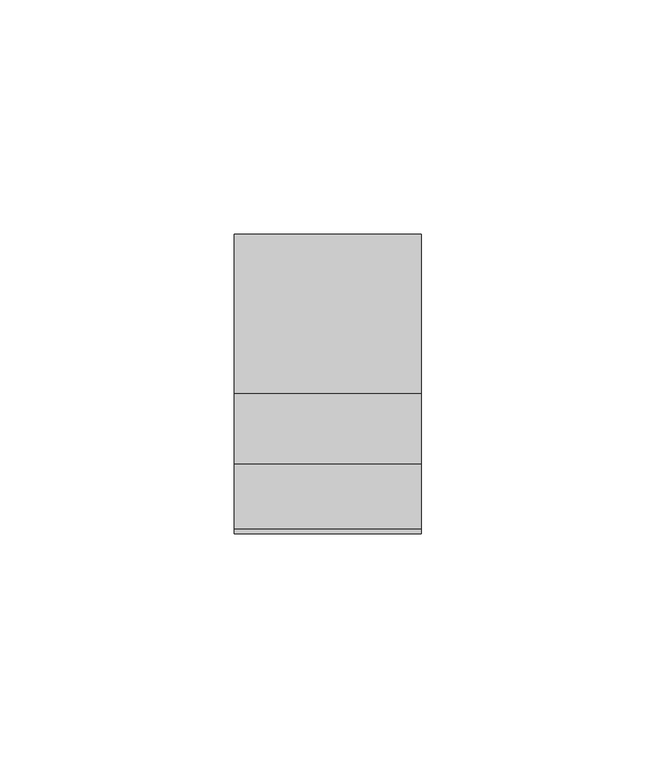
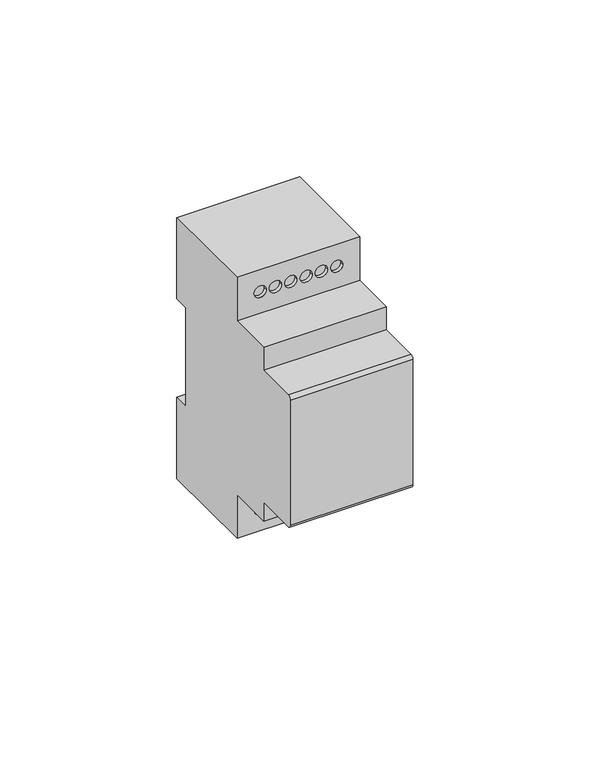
"""IFC4 building model written with IfcOpenShell, lengths in millimetres: proxy geometry, TDM_РЕЛЕ КОНТРОЛЯ УРОВНЯ СЕРИИ РКУ-02_03_04 : РКУ-02 230/400 В АС."""

from ifc_helpers import new_model, si_unit, frame, origin, place, context, project, spatial, polyline, circle_curve, outline, extrude, source, transform, mapped, element, save
from ifc_brep_helpers import plane_surface, cylinder_surface, revolved_surface, advanced_brep


def electrical_equipment_8167011e(model_context):
    return source(origin(), model_context, "Body", "SolidModel", [
        extrude(outline(polyline([(19.0, 16.6821204), (19.0, 5.0468966), (-19.0, 5.0468966), (-19.0, 16.6821204), (19.0, 16.6821204)])), frame((0.0, 0.0, -44.0625), z_axis=(0.0, 0.0, 1.0), x_axis=(1.0, 0.0, 0.0)), (0.0, 0.0, 1.0), 87.8126081),
        advanced_brep(
        [(20.0, 32.5, 17.0), (20.0, 37.5, 17.0), (20.0, 37.5, 45.0), (20.0, 3.5, 45.0), (20.0, 3.5, 30.0), (20.0, -11.5, 30.0), (20.0, -11.5, 22.0), (20.0, -25.3777313, 22.0), (20.0, -26.5, 20.8777313), (20.0, -26.5, -22.3875602), (20.0, -25.3875602, -23.5), (20.0, -11.5, -23.5), (20.0, -11.5, -30.0), (20.0, 3.5, -30.0), (20.0, 3.5, -45.0), (20.0, 37.5, -45.0), (20.0, 37.5, -17.0), (20.0, 32.5, -17.0), (-20.0, 32.5, 17.0), (-20.0, 32.5, -17.0), (-20.0, 37.5, -17.0), (-20.0, 37.5, -45.0), (-20.0, 3.5, -45.0), (-20.0, 3.5, -30.0), (-20.0, -11.5, -30.0), (-20.0, -11.5, -23.5), (-20.0, -25.3875602, -23.5), (-20.0, -26.5, -22.3875602), (-20.0, -26.5, 20.8777313), (-20.0, -25.3777313, 22.0), (-20.0, -11.5, 22.0), (-20.0, -11.5, 30.0), (-20.0, 3.5, 30.0), (-20.0, 3.5, 45.0), (-20.0, 37.5, 45.0), (-20.0, 37.5, 17.0), (4.5, 6.1937398, -37.4385116), (0.5, 6.1937398, -37.4385116), (9.5, 6.1937398, -37.4385116), (5.5, 6.1937398, -37.4385116), (14.5, 6.1937398, -37.4385116), (10.5, 6.1937398, -37.4385116), (-4.5, 6.1937398, -37.4385116), (-0.5, 6.1937398, -37.4385116), (-9.5, 6.1937398, -37.4385116), (-5.5, 6.1937398, -37.4385116), (-14.5, 6.1937398, -37.4385116), (-10.5, 6.1937398, -37.4385116), (4.5, 6.1937398, 37.4385116), (0.5, 6.1937398, 37.4385116), (9.5, 6.1937398, 37.4385116), (5.5, 6.1937398, 37.4385116), (14.5, 6.1937398, 37.4385116), (10.5, 6.1937398, 37.4385116), (-4.5, 6.1937398, 37.4385116), (-0.5, 6.1937398, 37.4385116), (-9.5, 6.1937398, 37.4385116), (-5.5, 6.1937398, 37.4385116), (-14.5, 6.1937398, 37.4385116), (-10.5, 6.1937398, 37.4385116), (0.5, 3.5, 37.4385116), (4.5, 3.5, 37.4385116), (5.5, 3.5, 37.4385116), (9.5, 3.5, 37.4385116), (10.5, 3.5, 37.4385116), (14.5, 3.5, 37.4385116), (-0.5, 3.5, 37.4385116), (-4.5, 3.5, 37.4385116), (-5.5, 3.5, 37.4385116), (-9.5, 3.5, 37.4385116), (-10.5, 3.5, 37.4385116), (-14.5, 3.5, 37.4385116), (0.5, 3.5, -37.4385116), (4.5, 3.5, -37.4385116), (5.5, 3.5, -37.4385116), (9.5, 3.5, -37.4385116), (10.5, 3.5, -37.4385116), (14.5, 3.5, -37.4385116), (-0.5, 3.5, -37.4385116), (-4.5, 3.5, -37.4385116), (-5.5, 3.5, -37.4385116), (-9.5, 3.5, -37.4385116), (-10.5, 3.5, -37.4385116), (-14.5, 3.5, -37.4385116)],
        [
            (0, 1),
            (1, 2),
            (2, 3),
            (3, 4),
            (4, 5),
            (5, 6),
            (6, 7),
            (7, 8, circle_curve(frame((20.0, -25.3777313, 20.8777313), z_axis=(1.0, 0.0, 0.0), x_axis=(0.0, -1.0, 0.0)), 1.1222687)),
            (8, 9),
            (9, 10, circle_curve(frame((20.0, -25.3875602, -22.3875602), z_axis=(1.0, 0.0, 0.0), x_axis=(0.0, -1.0, 0.0)), 1.1124398)),
            (10, 11),
            (11, 12),
            (12, 13),
            (13, 14),
            (14, 15),
            (15, 16),
            (16, 17),
            (17, 0),
            (18, 19),
            (19, 20),
            (20, 21),
            (21, 22),
            (22, 23),
            (23, 24),
            (24, 25),
            (25, 26),
            (26, 27, circle_curve(frame((-20.0, -25.3875602, -22.3875602), z_axis=(-1.0, 0.0, 0.0), x_axis=(0.0, -1.0, 0.0)), 1.1124398)),
            (27, 28),
            (28, 29, circle_curve(frame((-20.0, -25.3777313, 20.8777313), z_axis=(-1.0, 0.0, 0.0), x_axis=(0.0, -1.0, 0.0)), 1.1222687)),
            (29, 30),
            (30, 31),
            (31, 32),
            (32, 33),
            (33, 34),
            (34, 35),
            (35, 18),
            (0, 18),
            (35, 1),
            (34, 2),
            (6, 30),
            (29, 7),
            (28, 8),
            (27, 9),
            (10, 26),
            (25, 11),
            (14, 22),
            (21, 15),
            (20, 16),
            (19, 17),
            (36, 37, circle_curve(frame((2.5, 6.1937398, -37.4385116), z_axis=(0.0, -1.0, 0.0), x_axis=(-1.0, 0.0, 0.0)), 2.0)),
            (37, 36, circle_curve(frame((2.5, 6.1937398, -37.4385116), z_axis=(0.0, -1.0, 0.0), x_axis=(-1.0, 0.0, 0.0)), 2.0)),
            (38, 39, circle_curve(frame((7.5, 6.1937398, -37.4385116), z_axis=(0.0, -1.0, 0.0), x_axis=(-1.0, 0.0, 0.0)), 2.0)),
            (39, 38, circle_curve(frame((7.5, 6.1937398, -37.4385116), z_axis=(0.0, -1.0, 0.0), x_axis=(-1.0, 0.0, 0.0)), 2.0)),
            (40, 41, circle_curve(frame((12.5, 6.1937398, -37.4385116), z_axis=(0.0, -1.0, 0.0), x_axis=(-1.0, 0.0, 0.0)), 2.0)),
            (41, 40, circle_curve(frame((12.5, 6.1937398, -37.4385116), z_axis=(0.0, -1.0, 0.0), x_axis=(-1.0, 0.0, 0.0)), 2.0)),
            (42, 43, circle_curve(frame((-2.5, 6.1937398, -37.4385116), z_axis=(0.0, -1.0, 0.0), x_axis=(1.0, 0.0, 0.0)), 2.0)),
            (43, 42, circle_curve(frame((-2.5, 6.1937398, -37.4385116), z_axis=(0.0, -1.0, 0.0), x_axis=(1.0, 0.0, 0.0)), 2.0)),
            (44, 45, circle_curve(frame((-7.5, 6.1937398, -37.4385116), z_axis=(0.0, -1.0, 0.0), x_axis=(1.0, 0.0, 0.0)), 2.0)),
            (45, 44, circle_curve(frame((-7.5, 6.1937398, -37.4385116), z_axis=(0.0, -1.0, 0.0), x_axis=(1.0, 0.0, 0.0)), 2.0)),
            (46, 47, circle_curve(frame((-12.5, 6.1937398, -37.4385116), z_axis=(0.0, -1.0, 0.0), x_axis=(1.0, 0.0, 0.0)), 2.0)),
            (47, 46, circle_curve(frame((-12.5, 6.1937398, -37.4385116), z_axis=(0.0, -1.0, 0.0), x_axis=(1.0, 0.0, 0.0)), 2.0)),
            (48, 49, circle_curve(frame((2.5, 6.1937398, 37.4385116), z_axis=(0.0, -1.0, 0.0), x_axis=(-1.0, 0.0, 0.0)), 2.0)),
            (49, 48, circle_curve(frame((2.5, 6.1937398, 37.4385116), z_axis=(0.0, -1.0, 0.0), x_axis=(-1.0, 0.0, 0.0)), 2.0)),
            (50, 51, circle_curve(frame((7.5, 6.1937398, 37.4385116), z_axis=(0.0, -1.0, 0.0), x_axis=(-1.0, 0.0, 0.0)), 2.0)),
            (51, 50, circle_curve(frame((7.5, 6.1937398, 37.4385116), z_axis=(0.0, -1.0, 0.0), x_axis=(-1.0, 0.0, 0.0)), 2.0)),
            (52, 53, circle_curve(frame((12.5, 6.1937398, 37.4385116), z_axis=(0.0, -1.0, 0.0), x_axis=(-1.0, 0.0, 0.0)), 2.0)),
            (53, 52, circle_curve(frame((12.5, 6.1937398, 37.4385116), z_axis=(0.0, -1.0, 0.0), x_axis=(-1.0, 0.0, 0.0)), 2.0)),
            (54, 55, circle_curve(frame((-2.5, 6.1937398, 37.4385116), z_axis=(0.0, -1.0, 0.0), x_axis=(1.0, 0.0, 0.0)), 2.0)),
            (55, 54, circle_curve(frame((-2.5, 6.1937398, 37.4385116), z_axis=(0.0, -1.0, 0.0), x_axis=(1.0, 0.0, 0.0)), 2.0)),
            (56, 57, circle_curve(frame((-7.5, 6.1937398, 37.4385116), z_axis=(0.0, -1.0, 0.0), x_axis=(1.0, 0.0, 0.0)), 2.0)),
            (57, 56, circle_curve(frame((-7.5, 6.1937398, 37.4385116), z_axis=(0.0, -1.0, 0.0), x_axis=(1.0, 0.0, 0.0)), 2.0)),
            (58, 59, circle_curve(frame((-12.5, 6.1937398, 37.4385116), z_axis=(0.0, -1.0, 0.0), x_axis=(1.0, 0.0, 0.0)), 2.0)),
            (59, 58, circle_curve(frame((-12.5, 6.1937398, 37.4385116), z_axis=(0.0, -1.0, 0.0), x_axis=(1.0, 0.0, 0.0)), 2.0)),
            (3, 33),
            (32, 4),
            (60, 61, circle_curve(frame((2.5, 3.5, 37.4385116), z_axis=(0.0, 1.0, 0.0), x_axis=(-1.0, 0.0, 0.0)), 2.0)),
            (61, 60, circle_curve(frame((2.5, 3.5, 37.4385116), z_axis=(0.0, 1.0, 0.0), x_axis=(-1.0, 0.0, 0.0)), 2.0)),
            (62, 63, circle_curve(frame((7.5, 3.5, 37.4385116), z_axis=(0.0, 1.0, 0.0), x_axis=(-1.0, 0.0, 0.0)), 2.0)),
            (63, 62, circle_curve(frame((7.5, 3.5, 37.4385116), z_axis=(0.0, 1.0, 0.0), x_axis=(-1.0, 0.0, 0.0)), 2.0)),
            (64, 65, circle_curve(frame((12.5, 3.5, 37.4385116), z_axis=(0.0, 1.0, 0.0), x_axis=(-1.0, 0.0, 0.0)), 2.0)),
            (65, 64, circle_curve(frame((12.5, 3.5, 37.4385116), z_axis=(0.0, 1.0, 0.0), x_axis=(-1.0, 0.0, 0.0)), 2.0)),
            (66, 67, circle_curve(frame((-2.5, 3.5, 37.4385116), z_axis=(0.0, 1.0, 0.0), x_axis=(1.0, 0.0, 0.0)), 2.0)),
            (67, 66, circle_curve(frame((-2.5, 3.5, 37.4385116), z_axis=(0.0, 1.0, 0.0), x_axis=(1.0, 0.0, 0.0)), 2.0)),
            (68, 69, circle_curve(frame((-7.5, 3.5, 37.4385116), z_axis=(0.0, 1.0, 0.0), x_axis=(1.0, 0.0, 0.0)), 2.0)),
            (69, 68, circle_curve(frame((-7.5, 3.5, 37.4385116), z_axis=(0.0, 1.0, 0.0), x_axis=(1.0, 0.0, 0.0)), 2.0)),
            (70, 71, circle_curve(frame((-12.5, 3.5, 37.4385116), z_axis=(0.0, 1.0, 0.0), x_axis=(1.0, 0.0, 0.0)), 2.0)),
            (71, 70, circle_curve(frame((-12.5, 3.5, 37.4385116), z_axis=(0.0, 1.0, 0.0), x_axis=(1.0, 0.0, 0.0)), 2.0)),
            (31, 5),
            (24, 12),
            (23, 13),
            (72, 73, circle_curve(frame((2.5, 3.5, -37.4385116), z_axis=(0.0, 1.0, 0.0), x_axis=(-1.0, 0.0, 0.0)), 2.0)),
            (73, 72, circle_curve(frame((2.5, 3.5, -37.4385116), z_axis=(0.0, 1.0, 0.0), x_axis=(-1.0, 0.0, 0.0)), 2.0)),
            (74, 75, circle_curve(frame((7.5, 3.5, -37.4385116), z_axis=(0.0, 1.0, 0.0), x_axis=(-1.0, 0.0, 0.0)), 2.0)),
            (75, 74, circle_curve(frame((7.5, 3.5, -37.4385116), z_axis=(0.0, 1.0, 0.0), x_axis=(-1.0, 0.0, 0.0)), 2.0)),
            (76, 77, circle_curve(frame((12.5, 3.5, -37.4385116), z_axis=(0.0, 1.0, 0.0), x_axis=(-1.0, 0.0, 0.0)), 2.0)),
            (77, 76, circle_curve(frame((12.5, 3.5, -37.4385116), z_axis=(0.0, 1.0, 0.0), x_axis=(-1.0, 0.0, 0.0)), 2.0)),
            (78, 79, circle_curve(frame((-2.5, 3.5, -37.4385116), z_axis=(0.0, 1.0, 0.0), x_axis=(1.0, 0.0, 0.0)), 2.0)),
            (79, 78, circle_curve(frame((-2.5, 3.5, -37.4385116), z_axis=(0.0, 1.0, 0.0), x_axis=(1.0, 0.0, 0.0)), 2.0)),
            (80, 81, circle_curve(frame((-7.5, 3.5, -37.4385116), z_axis=(0.0, 1.0, 0.0), x_axis=(1.0, 0.0, 0.0)), 2.0)),
            (81, 80, circle_curve(frame((-7.5, 3.5, -37.4385116), z_axis=(0.0, 1.0, 0.0), x_axis=(1.0, 0.0, 0.0)), 2.0)),
            (82, 83, circle_curve(frame((-12.5, 3.5, -37.4385116), z_axis=(0.0, 1.0, 0.0), x_axis=(1.0, 0.0, 0.0)), 2.0)),
            (83, 82, circle_curve(frame((-12.5, 3.5, -37.4385116), z_axis=(0.0, 1.0, 0.0), x_axis=(1.0, 0.0, 0.0)), 2.0)),
            (36, 73),
            (72, 37),
            (38, 75),
            (74, 39),
            (40, 77),
            (76, 41),
            (42, 79),
            (78, 43),
            (44, 81),
            (80, 45),
            (46, 83),
            (82, 47),
            (48, 61),
            (60, 49),
            (50, 63),
            (62, 51),
            (52, 65),
            (64, 53),
            (54, 67),
            (66, 55),
            (56, 69),
            (68, 57),
            (58, 71),
            (70, 59),
        ],
        [
            plane_surface(frame((20.0, 31.7632568, 17.0), z_axis=(1.0, 0.0, 0.0), x_axis=(0.0, 1.0, 0.0))),
            plane_surface(frame((-20.0, 31.7632568, 17.0), z_axis=(-1.0, 0.0, 0.0), x_axis=(0.0, -1.0, 0.0))),
            plane_surface(frame((20.0, 32.5, 17.0), z_axis=(0.0, 0.0, -1.0), x_axis=(-1.0, 0.0, 0.0))),
            plane_surface(frame((20.0, 37.5, 17.0), z_axis=(0.0, 1.0, 0.0), x_axis=(-1.0, 0.0, 0.0))),
            plane_surface(frame((20.0, -11.5, 22.0), z_axis=(0.0, 0.0, 1.0), x_axis=(-1.0, 0.0, 0.0))),
            cylinder_surface(frame((-20.0, -25.3777313, 20.8777313), z_axis=(1.0, 0.0, 0.0), x_axis=(0.0, -1.0, 0.0)), 1.1222687),
            plane_surface(frame((20.0, -26.5, 20.8777313), z_axis=(0.0, -1.0, 0.0), x_axis=(-1.0, 0.0, 0.0))),
            plane_surface(frame((20.0, -25.3875602, -23.5), z_axis=(0.0, 0.0, -1.0), x_axis=(-1.0, 0.0, 0.0))),
            plane_surface(frame((20.0, 3.5, -45.0), z_axis=(0.0, 0.0, -1.0), x_axis=(-1.0, 0.0, 0.0))),
            plane_surface(frame((20.0, 37.5, -45.0), z_axis=(0.0, 1.0, 0.0), x_axis=(-1.0, 0.0, 0.0))),
            plane_surface(frame((20.0, 37.5, -17.0), z_axis=(0.0, 0.0, 1.0), x_axis=(-1.0, 0.0, 0.0))),
            plane_surface(frame((20.0, 32.5, -17.0), z_axis=(0.0, 1.0, 0.0), x_axis=(-1.0, 0.0, 0.0))),
            cylinder_surface(frame((-20.0, -25.3875602, -22.3875602), z_axis=(1.0, 0.0, 0.0), x_axis=(0.0, -1.0, 0.0)), 1.1124398),
            plane_surface(frame((0.5, 6.1937398, -37.4385116), z_axis=(0.0, -1.0, 0.0), x_axis=(0.0, 0.0, 1.0))),
            plane_surface(frame((20.0, 3.5, 45.0), z_axis=(0.0, -1.0, 0.0), x_axis=(-1.0, 0.0, 0.0))),
            plane_surface(frame((20.0, 3.5, 30.0), z_axis=(0.0, 0.0, 1.0), x_axis=(-1.0, 0.0, 0.0))),
            plane_surface(frame((20.0, -11.5, 30.0), z_axis=(0.0, -1.0, 0.0), x_axis=(-1.0, 0.0, 0.0))),
            plane_surface(frame((20.0, -11.5, -23.5), z_axis=(0.0, -1.0, 0.0), x_axis=(-1.0, 0.0, 0.0))),
            plane_surface(frame((20.0, -11.5, -30.0), z_axis=(0.0, 0.0, -1.0), x_axis=(-1.0, 0.0, 0.0))),
            plane_surface(frame((20.0, 3.5, -30.0), z_axis=(0.0, -1.0, 0.0), x_axis=(-1.0, 0.0, 0.0))),
            plane_surface(frame((20.0, 37.5, 45.0), z_axis=(0.0, 0.0, 1.0), x_axis=(-1.0, 0.0, 0.0))),
            revolved_surface(polyline([(0.5, 3.5, -37.4385116), (0.5, 6.1937398, -37.4385116)]), (2.5, 6.1937398, -37.4385116), (0.0, -1.0, 0.0)),
            revolved_surface(polyline([(5.5, 3.5, -37.4385116), (5.5, 6.1937398, -37.4385116)]), (7.5, 0.0, -37.4385116), (0.0, -1.0, 0.0)),
            revolved_surface(polyline([(10.5, 3.5, -37.4385116), (10.5, 6.1937398, -37.4385116)]), (12.5, 0.0, -37.4385116), (0.0, -1.0, 0.0)),
            revolved_surface(polyline([(-0.5, 3.5, -37.4385116), (-0.5, 6.1937398, -37.4385116)]), (-2.5, 0.0, -37.4385116), (0.0, -1.0, 0.0)),
            revolved_surface(polyline([(-5.5, 3.5, -37.4385116), (-5.5, 6.1937398, -37.4385116)]), (-7.5, 0.0, -37.4385116), (0.0, -1.0, 0.0)),
            revolved_surface(polyline([(-10.5, 3.5, -37.4385116), (-10.5, 6.1937398, -37.4385116)]), (-12.5, 0.0, -37.4385116), (0.0, -1.0, 0.0)),
            revolved_surface(polyline([(0.5, 3.5, 37.4385116), (0.5, 6.1937398, 37.4385116)]), (2.5, 0.0, 37.4385116), (0.0, -1.0, 0.0)),
            revolved_surface(polyline([(5.5, 3.5, 37.4385116), (5.5, 6.1937398, 37.4385116)]), (7.5, 0.0, 37.4385116), (0.0, -1.0, 0.0)),
            revolved_surface(polyline([(10.5, 3.5, 37.4385116), (10.5, 6.1937398, 37.4385116)]), (12.5, 0.0, 37.4385116), (0.0, -1.0, 0.0)),
            revolved_surface(polyline([(-0.5, 3.5, 37.4385116), (-0.5, 6.1937398, 37.4385116)]), (-2.5, 0.0, 37.4385116), (0.0, -1.0, 0.0)),
            revolved_surface(polyline([(-5.5, 3.5, 37.4385116), (-5.5, 6.1937398, 37.4385116)]), (-7.5, 0.0, 37.4385116), (0.0, -1.0, 0.0)),
            revolved_surface(polyline([(-10.5, 3.5, 37.4385116), (-10.5, 6.1937398, 37.4385116)]), (-12.5, 0.0, 37.4385116), (0.0, -1.0, 0.0)),
        ],
        [
            (0, [[1, 2, 3, 4, 5, 6, 7, 8, 9, 10, 11, 12, 13, 14, 15, 16, 17, 18]]),
            (1, [[19, 20, 21, 22, 23, 24, 25, 26, 27, 28, 29, 30, 31, 32, 33, 34, 35, 36]]),
            (2, [[-1, 37, -36, 38]]),
            (3, [[-2, -38, -35, 39]]),
            (4, [[-7, 40, -30, 41]]),
            (5, [[-8, -41, -29, 42]]),
            (6, [[-9, -42, -28, 43]]),
            (7, [[-11, 44, -26, 45]]),
            (8, [[-15, 46, -22, 47]]),
            (9, [[-16, -47, -21, 48]]),
            (10, [[-17, -48, -20, 49]]),
            (11, [[-18, -49, -19, -37]]),
            (12, [[-10, -43, -27, -44]]),
            (13, [[50, 51]]),
            (13, [[52, 53]]),
            (13, [[54, 55]]),
            (13, [[56, 57]]),
            (13, [[58, 59]]),
            (13, [[60, 61]]),
            (13, [[62, 63]]),
            (13, [[64, 65]]),
            (13, [[66, 67]]),
            (13, [[68, 69]]),
            (13, [[70, 71]]),
            (13, [[72, 73]]),
            (14, [[-4, 74, -33, 75], [76, 77], [78, 79], [80, 81], [82, 83], [84, 85], [86, 87]]),
            (15, [[-5, -75, -32, 88]]),
            (16, [[-6, -88, -31, -40]]),
            (17, [[-12, -45, -25, 89]]),
            (18, [[-13, -89, -24, 90]]),
            (19, [[-14, -90, -23, -46], [91, 92], [93, 94], [95, 96], [97, 98], [99, 100], [101, 102]]),
            (20, [[-3, -39, -34, -74]]),
            (21, [[-50, 103, -91, 104]]),
            (21, [[-51, -104, -92, -103]]),
            (22, [[-52, 105, -93, 106]]),
            (22, [[-53, -106, -94, -105]]),
            (23, [[-54, 107, -95, 108]]),
            (23, [[-55, -108, -96, -107]]),
            (24, [[-56, 109, -97, 110]]),
            (24, [[-57, -110, -98, -109]]),
            (25, [[-58, 111, -99, 112]]),
            (25, [[-59, -112, -100, -111]]),
            (26, [[-60, 113, -101, 114]]),
            (26, [[-61, -114, -102, -113]]),
            (27, [[-62, 115, -76, 116]]),
            (27, [[-63, -116, -77, -115]]),
            (28, [[-64, 117, -78, 118]]),
            (28, [[-65, -118, -79, -117]]),
            (29, [[-66, 119, -80, 120]]),
            (29, [[-67, -120, -81, -119]]),
            (30, [[-68, 121, -82, 122]]),
            (30, [[-69, -122, -83, -121]]),
            (31, [[-70, 123, -84, 124]]),
            (31, [[-71, -124, -85, -123]]),
            (32, [[-72, 125, -86, 126]]),
            (32, [[-73, -126, -87, -125]]),
        ],
    ),
    ])


if __name__ == "__main__":
    model = new_model("IFC4")
    model_context = context("Model", 3, world=origin())
    ifc_project = project(units=[si_unit("LENGTHUNIT", "METRE", prefix="MILLI")], contexts=[model_context])
    site = spatial("IfcSite", under=ifc_project)
    building = spatial("IfcBuilding", under=site)
    placement = place(None, origin())
    electrical_equipment_shape = electrical_equipment_8167011e(model_context)
    element("IfcBuildingElementProxy", 1, Name="TDM_РЕЛЕ КОНТРОЛЯ УРОВНЯ СЕРИИ РКУ-02_03_04 : РКУ-02 230/400 В АС", ObjectType="TDM_РЕЛЕ КОНТРОЛЯ УРОВНЯ СЕРИИ РКУ-02_03_04 : РКУ-02 230/400 В АС", at=placement, inside=building, context=model_context, shape_type="MappedRepresentation", body=[
        mapped(electrical_equipment_shape, transform((0.0, 0.0, 0.0), x_axis=(1.0, 0.0, 0.0), y_axis=(0.0, 1.0, 0.0), z_axis=(0.0, 0.0, 1.0))),
    ])
    save(model, "model.ifc")
